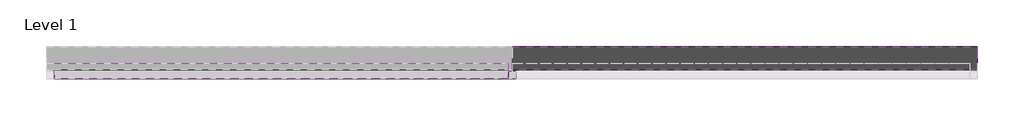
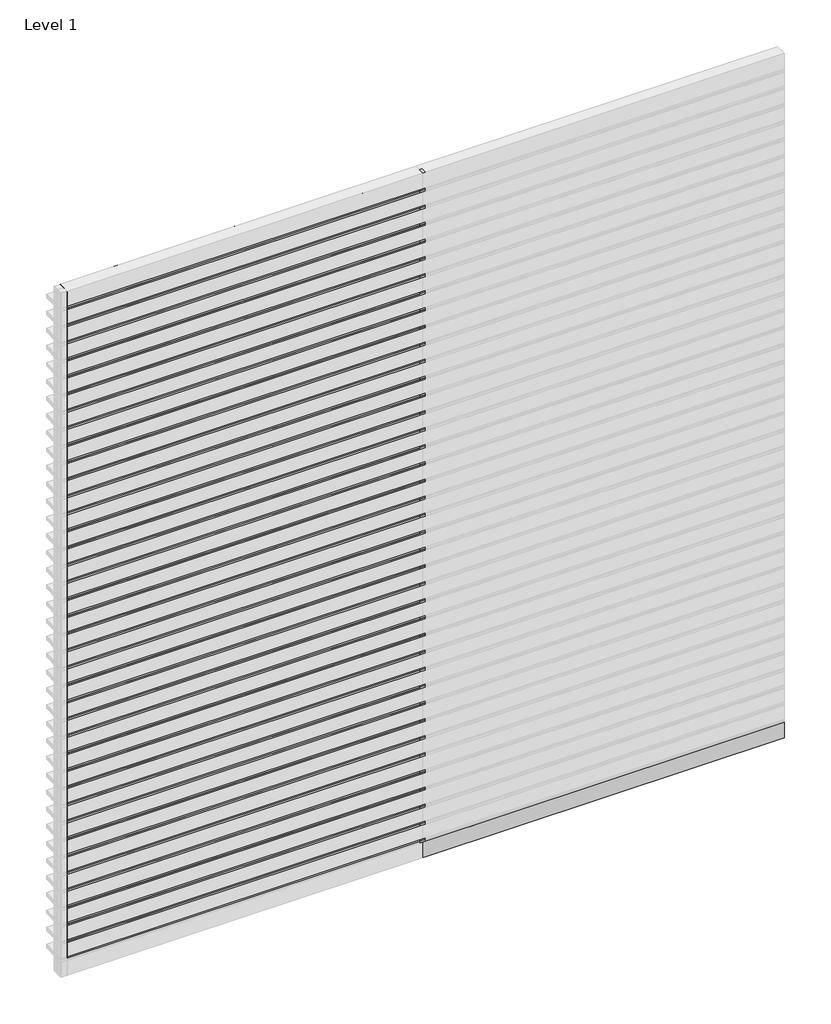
# One storey, part 2 of 3: 79 members, 40 plates.
"""IFC4 building model written with IfcOpenShell, lengths in millimetres."""

from ifc_helpers import new_model, si_unit, origin, place, context, project, spatial, transform, mapped, element, save
from components import rectangular_mullion_4e9be6f4, rectangular_mullion_eb4a5411, empty_system_panel_empty_50652f15, empty_system_panel_empty_149e9d60

model = new_model("IFC4")

# Units and contexts
model_context = context("Model", 3, world=origin())
ifc_project = project(units=[si_unit("LENGTHUNIT", "METRE", prefix="MILLI")], contexts=[model_context])

# Site, building, storey
site = spatial("IfcSite", under=ifc_project)
building = spatial("IfcBuilding", under=site)
storey = spatial("IfcBuildingStorey", under=building, Name="Level 1", Elevation=0.0)

# Members
placement = place(None, origin())
rectangular_mullion_shape = rectangular_mullion_4e9be6f4(model_context)
element("IfcMember", 1, ObjectType="Rectangular Mullion : RSen_21_CWM_blade - cubic 150 - 0°_gen_duco projects", at=placement, inside=storey, context=model_context, shape_type="MappedRepresentation", body=[
    mapped(rectangular_mullion_shape, transform((3000.0, 3000.0, 150.0), x_axis=(0.0, 0.0, 1.0), y_axis=(0.0, 1.0, 0.0), z_axis=(-1.0, 0.0, 0.0))),
])
element("IfcMember", 2, ObjectType="Rectangular Mullion : RSen_21_CWM_blade - cubic 150 - 0°_gen_duco projects", at=placement, inside=storey, context=model_context, shape_type="MappedRepresentation", body=[
    mapped(rectangular_mullion_shape, transform((3000.0, 3000.0, 300.0), x_axis=(0.0, 0.0, 1.0), y_axis=(0.0, 1.0, 0.0), z_axis=(-1.0, 0.0, 0.0))),
])
element("IfcMember", 3, ObjectType="Rectangular Mullion : RSen_21_CWM_blade - cubic 150 - 0°_gen_duco projects", at=placement, inside=storey, context=model_context, shape_type="MappedRepresentation", body=[
    mapped(rectangular_mullion_shape, transform((3000.0, 3000.0, 450.0), x_axis=(0.0, 0.0, 1.0), y_axis=(0.0, 1.0, 0.0), z_axis=(-1.0, 0.0, 0.0))),
])
element("IfcMember", 4, ObjectType="Rectangular Mullion : RSen_21_CWM_blade - cubic 150 - 0°_gen_duco projects", at=placement, inside=storey, context=model_context, shape_type="MappedRepresentation", body=[
    mapped(rectangular_mullion_shape, transform((3000.0, 3000.0, 600.0), x_axis=(0.0, 0.0, 1.0), y_axis=(0.0, 1.0, 0.0), z_axis=(-1.0, 0.0, 0.0))),
])
element("IfcMember", 5, ObjectType="Rectangular Mullion : RSen_21_CWM_blade - cubic 150 - 0°_gen_duco projects", at=placement, inside=storey, context=model_context, shape_type="MappedRepresentation", body=[
    mapped(rectangular_mullion_shape, transform((3000.0, 3000.0, 750.0), x_axis=(0.0, 0.0, 1.0), y_axis=(0.0, 1.0, 0.0), z_axis=(-1.0, 0.0, 0.0))),
])
element("IfcMember", 6, ObjectType="Rectangular Mullion : RSen_21_CWM_blade - cubic 150 - 0°_gen_duco projects", at=placement, inside=storey, context=model_context, shape_type="MappedRepresentation", body=[
    mapped(rectangular_mullion_shape, transform((3000.0, 3000.0, 900.0), x_axis=(0.0, 0.0, 1.0), y_axis=(0.0, 1.0, 0.0), z_axis=(-1.0, 0.0, 0.0))),
])
element("IfcMember", 7, ObjectType="Rectangular Mullion : RSen_21_CWM_blade - cubic 150 - 0°_gen_duco projects", at=placement, inside=storey, context=model_context, shape_type="MappedRepresentation", body=[
    mapped(rectangular_mullion_shape, transform((3000.0, 3000.0, 1050.0), x_axis=(0.0, 0.0, 1.0), y_axis=(0.0, 1.0, 0.0), z_axis=(-1.0, 0.0, 0.0))),
])
element("IfcMember", 8, ObjectType="Rectangular Mullion : RSen_21_CWM_blade - cubic 150 - 0°_gen_duco projects", at=placement, inside=storey, context=model_context, shape_type="MappedRepresentation", body=[
    mapped(rectangular_mullion_shape, transform((3000.0, 3000.0, 1200.0), x_axis=(0.0, 0.0, 1.0), y_axis=(0.0, 1.0, 0.0), z_axis=(-1.0, 0.0, 0.0))),
])
element("IfcMember", 9, ObjectType="Rectangular Mullion : RSen_21_CWM_blade - cubic 150 - 0°_gen_duco projects", at=placement, inside=storey, context=model_context, shape_type="MappedRepresentation", body=[
    mapped(rectangular_mullion_shape, transform((3000.0, 3000.0, 1350.0), x_axis=(0.0, 0.0, 1.0), y_axis=(0.0, 1.0, 0.0), z_axis=(-1.0, 0.0, 0.0))),
])
element("IfcMember", 10, ObjectType="Rectangular Mullion : RSen_21_CWM_blade - cubic 150 - 0°_gen_duco projects", at=placement, inside=storey, context=model_context, shape_type="MappedRepresentation", body=[
    mapped(rectangular_mullion_shape, transform((3000.0, 3000.0, 1500.0), x_axis=(0.0, 0.0, 1.0), y_axis=(0.0, 1.0, 0.0), z_axis=(-1.0, 0.0, 0.0))),
])
element("IfcMember", 11, ObjectType="Rectangular Mullion : RSen_21_CWM_blade - cubic 150 - 0°_gen_duco projects", at=placement, inside=storey, context=model_context, shape_type="MappedRepresentation", body=[
    mapped(rectangular_mullion_shape, transform((3000.0, 3000.0, 1650.0), x_axis=(0.0, 0.0, 1.0), y_axis=(0.0, 1.0, 0.0), z_axis=(-1.0, 0.0, 0.0))),
])
element("IfcMember", 12, ObjectType="Rectangular Mullion : RSen_21_CWM_blade - cubic 150 - 0°_gen_duco projects", at=placement, inside=storey, context=model_context, shape_type="MappedRepresentation", body=[
    mapped(rectangular_mullion_shape, transform((3000.0, 3000.0, 1800.0), x_axis=(0.0, 0.0, 1.0), y_axis=(0.0, 1.0, 0.0), z_axis=(-1.0, 0.0, 0.0))),
])
element("IfcMember", 13, ObjectType="Rectangular Mullion : RSen_21_CWM_blade - cubic 150 - 0°_gen_duco projects", at=placement, inside=storey, context=model_context, shape_type="MappedRepresentation", body=[
    mapped(rectangular_mullion_shape, transform((3000.0, 3000.0, 1950.0), x_axis=(0.0, 0.0, 1.0), y_axis=(0.0, 1.0, 0.0), z_axis=(-1.0, 0.0, 0.0))),
])
element("IfcMember", 14, ObjectType="Rectangular Mullion : RSen_21_CWM_blade - cubic 150 - 0°_gen_duco projects", at=placement, inside=storey, context=model_context, shape_type="MappedRepresentation", body=[
    mapped(rectangular_mullion_shape, transform((3000.0, 3000.0, 2100.0), x_axis=(0.0, 0.0, 1.0), y_axis=(0.0, 1.0, 0.0), z_axis=(-1.0, 0.0, 0.0))),
])
element("IfcMember", 15, ObjectType="Rectangular Mullion : RSen_21_CWM_blade - cubic 150 - 0°_gen_duco projects", at=placement, inside=storey, context=model_context, shape_type="MappedRepresentation", body=[
    mapped(rectangular_mullion_shape, transform((3000.0, 3000.0, 2250.0), x_axis=(0.0, 0.0, 1.0), y_axis=(0.0, 1.0, 0.0), z_axis=(-1.0, 0.0, 0.0))),
])
element("IfcMember", 16, ObjectType="Rectangular Mullion : RSen_21_CWM_blade - cubic 150 - 0°_gen_duco projects", at=placement, inside=storey, context=model_context, shape_type="MappedRepresentation", body=[
    mapped(rectangular_mullion_shape, transform((3000.0, 3000.0, 2400.0), x_axis=(0.0, 0.0, 1.0), y_axis=(0.0, 1.0, 0.0), z_axis=(-1.0, 0.0, 0.0))),
])
element("IfcMember", 17, ObjectType="Rectangular Mullion : RSen_21_CWM_blade - cubic 150 - 0°_gen_duco projects", at=placement, inside=storey, context=model_context, shape_type="MappedRepresentation", body=[
    mapped(rectangular_mullion_shape, transform((3000.0, 3000.0, 2550.0), x_axis=(0.0, 0.0, 1.0), y_axis=(0.0, 1.0, 0.0), z_axis=(-1.0, 0.0, 0.0))),
])
element("IfcMember", 18, ObjectType="Rectangular Mullion : RSen_21_CWM_blade - cubic 150 - 0°_gen_duco projects", at=placement, inside=storey, context=model_context, shape_type="MappedRepresentation", body=[
    mapped(rectangular_mullion_shape, transform((3000.0, 3000.0, 2700.0), x_axis=(0.0, 0.0, 1.0), y_axis=(0.0, 1.0, 0.0), z_axis=(-1.0, 0.0, 0.0))),
])
element("IfcMember", 19, ObjectType="Rectangular Mullion : RSen_21_CWM_blade - cubic 150 - 0°_gen_duco projects", at=placement, inside=storey, context=model_context, shape_type="MappedRepresentation", body=[
    mapped(rectangular_mullion_shape, transform((3000.0, 3000.0, 2850.0), x_axis=(0.0, 0.0, 1.0), y_axis=(0.0, 1.0, 0.0), z_axis=(-1.0, 0.0, 0.0))),
])
element("IfcMember", 20, ObjectType="Rectangular Mullion : RSen_21_CWM_blade - cubic 150 - 0°_gen_duco projects", at=placement, inside=storey, context=model_context, shape_type="MappedRepresentation", body=[
    mapped(rectangular_mullion_shape, transform((3000.0, 3000.0, 3000.0), x_axis=(0.0, 0.0, 1.0), y_axis=(0.0, 1.0, 0.0), z_axis=(-1.0, 0.0, 0.0))),
])
element("IfcMember", 21, ObjectType="Rectangular Mullion : RSen_21_CWM_blade - cubic 150 - 0°_gen_duco projects", at=placement, inside=storey, context=model_context, shape_type="MappedRepresentation", body=[
    mapped(rectangular_mullion_shape, transform((3000.0, 3000.0, 3150.0), x_axis=(0.0, 0.0, 1.0), y_axis=(0.0, 1.0, 0.0), z_axis=(-1.0, 0.0, 0.0))),
])
element("IfcMember", 22, ObjectType="Rectangular Mullion : RSen_21_CWM_blade - cubic 150 - 0°_gen_duco projects", at=placement, inside=storey, context=model_context, shape_type="MappedRepresentation", body=[
    mapped(rectangular_mullion_shape, transform((3000.0, 3000.0, 3300.0), x_axis=(0.0, 0.0, 1.0), y_axis=(0.0, 1.0, 0.0), z_axis=(-1.0, 0.0, 0.0))),
])
element("IfcMember", 23, ObjectType="Rectangular Mullion : RSen_21_CWM_blade - cubic 150 - 0°_gen_duco projects", at=placement, inside=storey, context=model_context, shape_type="MappedRepresentation", body=[
    mapped(rectangular_mullion_shape, transform((3000.0, 3000.0, 3450.0), x_axis=(0.0, 0.0, 1.0), y_axis=(0.0, 1.0, 0.0), z_axis=(-1.0, 0.0, 0.0))),
])
element("IfcMember", 24, ObjectType="Rectangular Mullion : RSen_21_CWM_blade - cubic 150 - 0°_gen_duco projects", at=placement, inside=storey, context=model_context, shape_type="MappedRepresentation", body=[
    mapped(rectangular_mullion_shape, transform((3000.0, 3000.0, 3600.0), x_axis=(0.0, 0.0, 1.0), y_axis=(0.0, 1.0, 0.0), z_axis=(-1.0, 0.0, 0.0))),
])
element("IfcMember", 25, ObjectType="Rectangular Mullion : RSen_21_CWM_blade - cubic 150 - 0°_gen_duco projects", at=placement, inside=storey, context=model_context, shape_type="MappedRepresentation", body=[
    mapped(rectangular_mullion_shape, transform((3000.0, 3000.0, 3750.0), x_axis=(0.0, 0.0, 1.0), y_axis=(0.0, 1.0, 0.0), z_axis=(-1.0, 0.0, 0.0))),
])
element("IfcMember", 26, ObjectType="Rectangular Mullion : RSen_21_CWM_blade - cubic 150 - 0°_gen_duco projects", at=placement, inside=storey, context=model_context, shape_type="MappedRepresentation", body=[
    mapped(rectangular_mullion_shape, transform((3000.0, 3000.0, 3900.0), x_axis=(0.0, 0.0, 1.0), y_axis=(0.0, 1.0, 0.0), z_axis=(-1.0, 0.0, 0.0))),
])
element("IfcMember", 27, ObjectType="Rectangular Mullion : RSen_21_CWM_blade - cubic 150 - 0°_gen_duco projects", at=placement, inside=storey, context=model_context, shape_type="MappedRepresentation", body=[
    mapped(rectangular_mullion_shape, transform((3000.0, 3000.0, 4050.0), x_axis=(0.0, 0.0, 1.0), y_axis=(0.0, 1.0, 0.0), z_axis=(-1.0, 0.0, 0.0))),
])
element("IfcMember", 28, ObjectType="Rectangular Mullion : RSen_21_CWM_blade - cubic 150 - 0°_gen_duco projects", at=placement, inside=storey, context=model_context, shape_type="MappedRepresentation", body=[
    mapped(rectangular_mullion_shape, transform((3000.0, 3000.0, 4200.0), x_axis=(0.0, 0.0, 1.0), y_axis=(0.0, 1.0, 0.0), z_axis=(-1.0, 0.0, 0.0))),
])
element("IfcMember", 29, ObjectType="Rectangular Mullion : RSen_21_CWM_blade - cubic 150 - 0°_gen_duco projects", at=placement, inside=storey, context=model_context, shape_type="MappedRepresentation", body=[
    mapped(rectangular_mullion_shape, transform((3000.0, 3000.0, 4350.0), x_axis=(0.0, 0.0, 1.0), y_axis=(0.0, 1.0, 0.0), z_axis=(-1.0, 0.0, 0.0))),
])
element("IfcMember", 30, ObjectType="Rectangular Mullion : RSen_21_CWM_blade - cubic 150 - 0°_gen_duco projects", at=placement, inside=storey, context=model_context, shape_type="MappedRepresentation", body=[
    mapped(rectangular_mullion_shape, transform((3000.0, 3000.0, 4500.0), x_axis=(0.0, 0.0, 1.0), y_axis=(0.0, 1.0, 0.0), z_axis=(-1.0, 0.0, 0.0))),
])
element("IfcMember", 31, ObjectType="Rectangular Mullion : RSen_21_CWM_blade - cubic 150 - 0°_gen_duco projects", at=placement, inside=storey, context=model_context, shape_type="MappedRepresentation", body=[
    mapped(rectangular_mullion_shape, transform((3000.0, 3000.0, 4650.0), x_axis=(0.0, 0.0, 1.0), y_axis=(0.0, 1.0, 0.0), z_axis=(-1.0, 0.0, 0.0))),
])
element("IfcMember", 32, ObjectType="Rectangular Mullion : RSen_21_CWM_blade - cubic 150 - 0°_gen_duco projects", at=placement, inside=storey, context=model_context, shape_type="MappedRepresentation", body=[
    mapped(rectangular_mullion_shape, transform((3000.0, 3000.0, 4800.0), x_axis=(0.0, 0.0, 1.0), y_axis=(0.0, 1.0, 0.0), z_axis=(-1.0, 0.0, 0.0))),
])
element("IfcMember", 33, ObjectType="Rectangular Mullion : RSen_21_CWM_blade - cubic 150 - 0°_gen_duco projects", at=placement, inside=storey, context=model_context, shape_type="MappedRepresentation", body=[
    mapped(rectangular_mullion_shape, transform((3000.0, 3000.0, 4950.0), x_axis=(0.0, 0.0, 1.0), y_axis=(0.0, 1.0, 0.0), z_axis=(-1.0, 0.0, 0.0))),
])
element("IfcMember", 34, ObjectType="Rectangular Mullion : RSen_21_CWM_blade - cubic 150 - 0°_gen_duco projects", at=placement, inside=storey, context=model_context, shape_type="MappedRepresentation", body=[
    mapped(rectangular_mullion_shape, transform((3000.0, 3000.0, 5100.0), x_axis=(0.0, 0.0, 1.0), y_axis=(0.0, 1.0, 0.0), z_axis=(-1.0, 0.0, 0.0))),
])
element("IfcMember", 35, ObjectType="Rectangular Mullion : RSen_21_CWM_blade - cubic 150 - 0°_gen_duco projects", at=placement, inside=storey, context=model_context, shape_type="MappedRepresentation", body=[
    mapped(rectangular_mullion_shape, transform((3000.0, 3000.0, 5250.0), x_axis=(0.0, 0.0, 1.0), y_axis=(0.0, 1.0, 0.0), z_axis=(-1.0, 0.0, 0.0))),
])
element("IfcMember", 36, ObjectType="Rectangular Mullion : RSen_21_CWM_blade - cubic 150 - 0°_gen_duco projects", at=placement, inside=storey, context=model_context, shape_type="MappedRepresentation", body=[
    mapped(rectangular_mullion_shape, transform((3000.0, 3000.0, 5400.0), x_axis=(0.0, 0.0, 1.0), y_axis=(0.0, 1.0, 0.0), z_axis=(-1.0, 0.0, 0.0))),
])
element("IfcMember", 37, ObjectType="Rectangular Mullion : RSen_21_CWM_blade - cubic 150 - 0°_gen_duco projects", at=placement, inside=storey, context=model_context, shape_type="MappedRepresentation", body=[
    mapped(rectangular_mullion_shape, transform((3000.0, 3000.0, 5550.0), x_axis=(0.0, 0.0, 1.0), y_axis=(0.0, 1.0, 0.0), z_axis=(-1.0, 0.0, 0.0))),
])
element("IfcMember", 38, ObjectType="Rectangular Mullion : RSen_21_CWM_blade - cubic 150 - 0°_gen_duco projects", at=placement, inside=storey, context=model_context, shape_type="MappedRepresentation", body=[
    mapped(rectangular_mullion_shape, transform((3000.0, 3000.0, 5700.0), x_axis=(0.0, 0.0, 1.0), y_axis=(0.0, 1.0, 0.0), z_axis=(-1.0, 0.0, 0.0))),
])
element("IfcMember", 39, ObjectType="Rectangular Mullion : RSen_21_CWM_blade - cubic 150 - 0°_gen_duco projects", at=placement, inside=storey, context=model_context, shape_type="MappedRepresentation", body=[
    mapped(rectangular_mullion_shape, transform((3000.0, 3000.0, 5850.0), x_axis=(0.0, 0.0, 1.0), y_axis=(0.0, 1.0, 0.0), z_axis=(-1.0, 0.0, 0.0))),
])
rectangular_mullion_2_shape = rectangular_mullion_eb4a5411(model_context)
element("IfcMember", 40, ObjectType="Rectangular Mullion : RSen_21_CWM_support profile 50x50_gen_duco projects", at=placement, inside=storey, context=model_context, shape_type="MappedRepresentation", body=[
    mapped(rectangular_mullion_2_shape, transform((3000.0, 3000.0, 0.0), x_axis=(-1.0, 0.0, 0.0), y_axis=(0.0, 1.0, 0.0), z_axis=(0.0, 0.0, -1.0))),
])
element("IfcMember", 41, ObjectType="Rectangular Mullion : RSen_21_CWM_support profile 50x50_gen_duco projects", at=placement, inside=storey, context=model_context, shape_type="MappedRepresentation", body=[
    mapped(rectangular_mullion_2_shape, transform((3000.0, 3000.0, 150.0), x_axis=(-1.0, 0.0, 0.0), y_axis=(0.0, 1.0, 0.0), z_axis=(0.0, 0.0, -1.0))),
])
element("IfcMember", 42, ObjectType="Rectangular Mullion : RSen_21_CWM_support profile 50x50_gen_duco projects", at=placement, inside=storey, context=model_context, shape_type="MappedRepresentation", body=[
    mapped(rectangular_mullion_2_shape, transform((3000.0, 3000.0, 300.0), x_axis=(-1.0, 0.0, 0.0), y_axis=(0.0, 1.0, 0.0), z_axis=(0.0, 0.0, -1.0))),
])
element("IfcMember", 43, ObjectType="Rectangular Mullion : RSen_21_CWM_support profile 50x50_gen_duco projects", at=placement, inside=storey, context=model_context, shape_type="MappedRepresentation", body=[
    mapped(rectangular_mullion_2_shape, transform((3000.0, 3000.0, 450.0), x_axis=(-1.0, 0.0, 0.0), y_axis=(0.0, 1.0, 0.0), z_axis=(0.0, 0.0, -1.0))),
])
element("IfcMember", 44, ObjectType="Rectangular Mullion : RSen_21_CWM_support profile 50x50_gen_duco projects", at=placement, inside=storey, context=model_context, shape_type="MappedRepresentation", body=[
    mapped(rectangular_mullion_2_shape, transform((3000.0, 3000.0, 600.0), x_axis=(-1.0, 0.0, 0.0), y_axis=(0.0, 1.0, 0.0), z_axis=(0.0, 0.0, -1.0))),
])
element("IfcMember", 45, ObjectType="Rectangular Mullion : RSen_21_CWM_support profile 50x50_gen_duco projects", at=placement, inside=storey, context=model_context, shape_type="MappedRepresentation", body=[
    mapped(rectangular_mullion_2_shape, transform((3000.0, 3000.0, 750.0), x_axis=(-1.0, 0.0, 0.0), y_axis=(0.0, 1.0, 0.0), z_axis=(0.0, 0.0, -1.0))),
])
element("IfcMember", 46, ObjectType="Rectangular Mullion : RSen_21_CWM_support profile 50x50_gen_duco projects", at=placement, inside=storey, context=model_context, shape_type="MappedRepresentation", body=[
    mapped(rectangular_mullion_2_shape, transform((3000.0, 3000.0, 900.0), x_axis=(-1.0, 0.0, 0.0), y_axis=(0.0, 1.0, 0.0), z_axis=(0.0, 0.0, -1.0))),
])
element("IfcMember", 47, ObjectType="Rectangular Mullion : RSen_21_CWM_support profile 50x50_gen_duco projects", at=placement, inside=storey, context=model_context, shape_type="MappedRepresentation", body=[
    mapped(rectangular_mullion_2_shape, transform((3000.0, 3000.0, 1050.0), x_axis=(-1.0, 0.0, 0.0), y_axis=(0.0, 1.0, 0.0), z_axis=(0.0, 0.0, -1.0))),
])
element("IfcMember", 48, ObjectType="Rectangular Mullion : RSen_21_CWM_support profile 50x50_gen_duco projects", at=placement, inside=storey, context=model_context, shape_type="MappedRepresentation", body=[
    mapped(rectangular_mullion_2_shape, transform((3000.0, 3000.0, 1200.0), x_axis=(-1.0, 0.0, 0.0), y_axis=(0.0, 1.0, 0.0), z_axis=(0.0, 0.0, -1.0))),
])
element("IfcMember", 49, ObjectType="Rectangular Mullion : RSen_21_CWM_support profile 50x50_gen_duco projects", at=placement, inside=storey, context=model_context, shape_type="MappedRepresentation", body=[
    mapped(rectangular_mullion_2_shape, transform((3000.0, 3000.0, 1350.0), x_axis=(-1.0, 0.0, 0.0), y_axis=(0.0, 1.0, 0.0), z_axis=(0.0, 0.0, -1.0))),
])
element("IfcMember", 50, ObjectType="Rectangular Mullion : RSen_21_CWM_support profile 50x50_gen_duco projects", at=placement, inside=storey, context=model_context, shape_type="MappedRepresentation", body=[
    mapped(rectangular_mullion_2_shape, transform((3000.0, 3000.0, 1500.0), x_axis=(-1.0, 0.0, 0.0), y_axis=(0.0, 1.0, 0.0), z_axis=(0.0, 0.0, -1.0))),
])
element("IfcMember", 51, ObjectType="Rectangular Mullion : RSen_21_CWM_support profile 50x50_gen_duco projects", at=placement, inside=storey, context=model_context, shape_type="MappedRepresentation", body=[
    mapped(rectangular_mullion_2_shape, transform((3000.0, 3000.0, 1650.0), x_axis=(-1.0, 0.0, 0.0), y_axis=(0.0, 1.0, 0.0), z_axis=(0.0, 0.0, -1.0))),
])
element("IfcMember", 52, ObjectType="Rectangular Mullion : RSen_21_CWM_support profile 50x50_gen_duco projects", at=placement, inside=storey, context=model_context, shape_type="MappedRepresentation", body=[
    mapped(rectangular_mullion_2_shape, transform((3000.0, 3000.0, 1800.0), x_axis=(-1.0, 0.0, 0.0), y_axis=(0.0, 1.0, 0.0), z_axis=(0.0, 0.0, -1.0))),
])
element("IfcMember", 53, ObjectType="Rectangular Mullion : RSen_21_CWM_support profile 50x50_gen_duco projects", at=placement, inside=storey, context=model_context, shape_type="MappedRepresentation", body=[
    mapped(rectangular_mullion_2_shape, transform((3000.0, 3000.0, 1950.0), x_axis=(-1.0, 0.0, 0.0), y_axis=(0.0, 1.0, 0.0), z_axis=(0.0, 0.0, -1.0))),
])
element("IfcMember", 54, ObjectType="Rectangular Mullion : RSen_21_CWM_support profile 50x50_gen_duco projects", at=placement, inside=storey, context=model_context, shape_type="MappedRepresentation", body=[
    mapped(rectangular_mullion_2_shape, transform((3000.0, 3000.0, 2100.0), x_axis=(-1.0, 0.0, 0.0), y_axis=(0.0, 1.0, 0.0), z_axis=(0.0, 0.0, -1.0))),
])
element("IfcMember", 55, ObjectType="Rectangular Mullion : RSen_21_CWM_support profile 50x50_gen_duco projects", at=placement, inside=storey, context=model_context, shape_type="MappedRepresentation", body=[
    mapped(rectangular_mullion_2_shape, transform((3000.0, 3000.0, 2250.0), x_axis=(-1.0, 0.0, 0.0), y_axis=(0.0, 1.0, 0.0), z_axis=(0.0, 0.0, -1.0))),
])
element("IfcMember", 56, ObjectType="Rectangular Mullion : RSen_21_CWM_support profile 50x50_gen_duco projects", at=placement, inside=storey, context=model_context, shape_type="MappedRepresentation", body=[
    mapped(rectangular_mullion_2_shape, transform((3000.0, 3000.0, 2400.0), x_axis=(-1.0, 0.0, 0.0), y_axis=(0.0, 1.0, 0.0), z_axis=(0.0, 0.0, -1.0))),
])
element("IfcMember", 57, ObjectType="Rectangular Mullion : RSen_21_CWM_support profile 50x50_gen_duco projects", at=placement, inside=storey, context=model_context, shape_type="MappedRepresentation", body=[
    mapped(rectangular_mullion_2_shape, transform((3000.0, 3000.0, 2550.0), x_axis=(-1.0, 0.0, 0.0), y_axis=(0.0, 1.0, 0.0), z_axis=(0.0, 0.0, -1.0))),
])
element("IfcMember", 58, ObjectType="Rectangular Mullion : RSen_21_CWM_support profile 50x50_gen_duco projects", at=placement, inside=storey, context=model_context, shape_type="MappedRepresentation", body=[
    mapped(rectangular_mullion_2_shape, transform((3000.0, 3000.0, 2700.0), x_axis=(-1.0, 0.0, 0.0), y_axis=(0.0, 1.0, 0.0), z_axis=(0.0, 0.0, -1.0))),
])
element("IfcMember", 59, ObjectType="Rectangular Mullion : RSen_21_CWM_support profile 50x50_gen_duco projects", at=placement, inside=storey, context=model_context, shape_type="MappedRepresentation", body=[
    mapped(rectangular_mullion_2_shape, transform((3000.0, 3000.0, 2850.0), x_axis=(-1.0, 0.0, 0.0), y_axis=(0.0, 1.0, 0.0), z_axis=(0.0, 0.0, -1.0))),
])
element("IfcMember", 60, ObjectType="Rectangular Mullion : RSen_21_CWM_support profile 50x50_gen_duco projects", at=placement, inside=storey, context=model_context, shape_type="MappedRepresentation", body=[
    mapped(rectangular_mullion_2_shape, transform((3000.0, 3000.0, 3000.0), x_axis=(-1.0, 0.0, 0.0), y_axis=(0.0, 1.0, 0.0), z_axis=(0.0, 0.0, -1.0))),
])
element("IfcMember", 61, ObjectType="Rectangular Mullion : RSen_21_CWM_support profile 50x50_gen_duco projects", at=placement, inside=storey, context=model_context, shape_type="MappedRepresentation", body=[
    mapped(rectangular_mullion_2_shape, transform((3000.0, 3000.0, 3150.0), x_axis=(-1.0, 0.0, 0.0), y_axis=(0.0, 1.0, 0.0), z_axis=(0.0, 0.0, -1.0))),
])
element("IfcMember", 62, ObjectType="Rectangular Mullion : RSen_21_CWM_support profile 50x50_gen_duco projects", at=placement, inside=storey, context=model_context, shape_type="MappedRepresentation", body=[
    mapped(rectangular_mullion_2_shape, transform((3000.0, 3000.0, 3300.0), x_axis=(-1.0, 0.0, 0.0), y_axis=(0.0, 1.0, 0.0), z_axis=(0.0, 0.0, -1.0))),
])
element("IfcMember", 63, ObjectType="Rectangular Mullion : RSen_21_CWM_support profile 50x50_gen_duco projects", at=placement, inside=storey, context=model_context, shape_type="MappedRepresentation", body=[
    mapped(rectangular_mullion_2_shape, transform((3000.0, 3000.0, 3450.0), x_axis=(-1.0, 0.0, 0.0), y_axis=(0.0, 1.0, 0.0), z_axis=(0.0, 0.0, -1.0))),
])
element("IfcMember", 64, ObjectType="Rectangular Mullion : RSen_21_CWM_support profile 50x50_gen_duco projects", at=placement, inside=storey, context=model_context, shape_type="MappedRepresentation", body=[
    mapped(rectangular_mullion_2_shape, transform((3000.0, 3000.0, 3600.0), x_axis=(-1.0, 0.0, 0.0), y_axis=(0.0, 1.0, 0.0), z_axis=(0.0, 0.0, -1.0))),
])
element("IfcMember", 65, ObjectType="Rectangular Mullion : RSen_21_CWM_support profile 50x50_gen_duco projects", at=placement, inside=storey, context=model_context, shape_type="MappedRepresentation", body=[
    mapped(rectangular_mullion_2_shape, transform((3000.0, 3000.0, 3750.0), x_axis=(-1.0, 0.0, 0.0), y_axis=(0.0, 1.0, 0.0), z_axis=(0.0, 0.0, -1.0))),
])
element("IfcMember", 66, ObjectType="Rectangular Mullion : RSen_21_CWM_support profile 50x50_gen_duco projects", at=placement, inside=storey, context=model_context, shape_type="MappedRepresentation", body=[
    mapped(rectangular_mullion_2_shape, transform((3000.0, 3000.0, 3900.0), x_axis=(-1.0, 0.0, 0.0), y_axis=(0.0, 1.0, 0.0), z_axis=(0.0, 0.0, -1.0))),
])
element("IfcMember", 67, ObjectType="Rectangular Mullion : RSen_21_CWM_support profile 50x50_gen_duco projects", at=placement, inside=storey, context=model_context, shape_type="MappedRepresentation", body=[
    mapped(rectangular_mullion_2_shape, transform((3000.0, 3000.0, 4050.0), x_axis=(-1.0, 0.0, 0.0), y_axis=(0.0, 1.0, 0.0), z_axis=(0.0, 0.0, -1.0))),
])
element("IfcMember", 68, ObjectType="Rectangular Mullion : RSen_21_CWM_support profile 50x50_gen_duco projects", at=placement, inside=storey, context=model_context, shape_type="MappedRepresentation", body=[
    mapped(rectangular_mullion_2_shape, transform((3000.0, 3000.0, 4200.0), x_axis=(-1.0, 0.0, 0.0), y_axis=(0.0, 1.0, 0.0), z_axis=(0.0, 0.0, -1.0))),
])
element("IfcMember", 69, ObjectType="Rectangular Mullion : RSen_21_CWM_support profile 50x50_gen_duco projects", at=placement, inside=storey, context=model_context, shape_type="MappedRepresentation", body=[
    mapped(rectangular_mullion_2_shape, transform((3000.0, 3000.0, 4350.0), x_axis=(-1.0, 0.0, 0.0), y_axis=(0.0, 1.0, 0.0), z_axis=(0.0, 0.0, -1.0))),
])
element("IfcMember", 70, ObjectType="Rectangular Mullion : RSen_21_CWM_support profile 50x50_gen_duco projects", at=placement, inside=storey, context=model_context, shape_type="MappedRepresentation", body=[
    mapped(rectangular_mullion_2_shape, transform((3000.0, 3000.0, 4500.0), x_axis=(-1.0, 0.0, 0.0), y_axis=(0.0, 1.0, 0.0), z_axis=(0.0, 0.0, -1.0))),
])
element("IfcMember", 71, ObjectType="Rectangular Mullion : RSen_21_CWM_support profile 50x50_gen_duco projects", at=placement, inside=storey, context=model_context, shape_type="MappedRepresentation", body=[
    mapped(rectangular_mullion_2_shape, transform((3000.0, 3000.0, 4650.0), x_axis=(-1.0, 0.0, 0.0), y_axis=(0.0, 1.0, 0.0), z_axis=(0.0, 0.0, -1.0))),
])
element("IfcMember", 72, ObjectType="Rectangular Mullion : RSen_21_CWM_support profile 50x50_gen_duco projects", at=placement, inside=storey, context=model_context, shape_type="MappedRepresentation", body=[
    mapped(rectangular_mullion_2_shape, transform((3000.0, 3000.0, 4800.0), x_axis=(-1.0, 0.0, 0.0), y_axis=(0.0, 1.0, 0.0), z_axis=(0.0, 0.0, -1.0))),
])
element("IfcMember", 73, ObjectType="Rectangular Mullion : RSen_21_CWM_support profile 50x50_gen_duco projects", at=placement, inside=storey, context=model_context, shape_type="MappedRepresentation", body=[
    mapped(rectangular_mullion_2_shape, transform((3000.0, 3000.0, 4950.0), x_axis=(-1.0, 0.0, 0.0), y_axis=(0.0, 1.0, 0.0), z_axis=(0.0, 0.0, -1.0))),
])
element("IfcMember", 74, ObjectType="Rectangular Mullion : RSen_21_CWM_support profile 50x50_gen_duco projects", at=placement, inside=storey, context=model_context, shape_type="MappedRepresentation", body=[
    mapped(rectangular_mullion_2_shape, transform((3000.0, 3000.0, 5100.0), x_axis=(-1.0, 0.0, 0.0), y_axis=(0.0, 1.0, 0.0), z_axis=(0.0, 0.0, -1.0))),
])
element("IfcMember", 75, ObjectType="Rectangular Mullion : RSen_21_CWM_support profile 50x50_gen_duco projects", at=placement, inside=storey, context=model_context, shape_type="MappedRepresentation", body=[
    mapped(rectangular_mullion_2_shape, transform((3000.0, 3000.0, 5250.0), x_axis=(-1.0, 0.0, 0.0), y_axis=(0.0, 1.0, 0.0), z_axis=(0.0, 0.0, -1.0))),
])
element("IfcMember", 76, ObjectType="Rectangular Mullion : RSen_21_CWM_support profile 50x50_gen_duco projects", at=placement, inside=storey, context=model_context, shape_type="MappedRepresentation", body=[
    mapped(rectangular_mullion_2_shape, transform((3000.0, 3000.0, 5400.0), x_axis=(-1.0, 0.0, 0.0), y_axis=(0.0, 1.0, 0.0), z_axis=(0.0, 0.0, -1.0))),
])
element("IfcMember", 77, ObjectType="Rectangular Mullion : RSen_21_CWM_support profile 50x50_gen_duco projects", at=placement, inside=storey, context=model_context, shape_type="MappedRepresentation", body=[
    mapped(rectangular_mullion_2_shape, transform((3000.0, 3000.0, 5550.0), x_axis=(-1.0, 0.0, 0.0), y_axis=(0.0, 1.0, 0.0), z_axis=(0.0, 0.0, -1.0))),
])
element("IfcMember", 78, ObjectType="Rectangular Mullion : RSen_21_CWM_support profile 50x50_gen_duco projects", at=placement, inside=storey, context=model_context, shape_type="MappedRepresentation", body=[
    mapped(rectangular_mullion_2_shape, transform((3000.0, 3000.0, 5700.0), x_axis=(-1.0, 0.0, 0.0), y_axis=(0.0, 1.0, 0.0), z_axis=(0.0, 0.0, -1.0))),
])
element("IfcMember", 79, ObjectType="Rectangular Mullion : RSen_21_CWM_support profile 50x50_gen_duco projects", at=placement, inside=storey, context=model_context, shape_type="MappedRepresentation", body=[
    mapped(rectangular_mullion_2_shape, transform((3000.0, 3000.0, 5850.0), x_axis=(-1.0, 0.0, 0.0), y_axis=(0.0, 1.0, 0.0), z_axis=(0.0, 0.0, -1.0))),
])

# Plates
empty_system_panel_empty_shape = empty_system_panel_empty_50652f15(model_context)
element("IfcPlate", 80, ObjectType="Empty System Panel : Empty", at=placement, inside=storey, context=model_context, shape_type="MappedRepresentation", body=[
    mapped(empty_system_panel_empty_shape, transform((4500.0, 3000.0, 0.0), x_axis=(-1.0, 0.0, 0.0), y_axis=(0.0, -1.0, 0.0), z_axis=(0.0, 0.0, 1.0))),
])
empty_system_panel_empty_2_shape = empty_system_panel_empty_149e9d60(model_context)
element("IfcPlate", 81, ObjectType="Empty System Panel : Empty", at=placement, inside=storey, context=model_context, shape_type="MappedRepresentation", body=[
    mapped(empty_system_panel_empty_2_shape, transform((1512.5, 3000.0, 150.0), x_axis=(-1.0, 0.0, 0.0), y_axis=(0.0, -1.0, 0.0), z_axis=(0.0, 0.0, 1.0))),
])
element("IfcPlate", 82, ObjectType="Empty System Panel : Empty", at=placement, inside=storey, context=model_context, shape_type="MappedRepresentation", body=[
    mapped(empty_system_panel_empty_2_shape, transform((1512.5, 3000.0, 300.0), x_axis=(-1.0, 0.0, 0.0), y_axis=(0.0, -1.0, 0.0), z_axis=(0.0, 0.0, 1.0))),
])
element("IfcPlate", 83, ObjectType="Empty System Panel : Empty", at=placement, inside=storey, context=model_context, shape_type="MappedRepresentation", body=[
    mapped(empty_system_panel_empty_2_shape, transform((1512.5, 3000.0, 450.0), x_axis=(-1.0, 0.0, 0.0), y_axis=(0.0, -1.0, 0.0), z_axis=(0.0, 0.0, 1.0))),
])
element("IfcPlate", 84, ObjectType="Empty System Panel : Empty", at=placement, inside=storey, context=model_context, shape_type="MappedRepresentation", body=[
    mapped(empty_system_panel_empty_2_shape, transform((1512.5, 3000.0, 600.0), x_axis=(-1.0, 0.0, 0.0), y_axis=(0.0, -1.0, 0.0), z_axis=(0.0, 0.0, 1.0))),
])
element("IfcPlate", 85, ObjectType="Empty System Panel : Empty", at=placement, inside=storey, context=model_context, shape_type="MappedRepresentation", body=[
    mapped(empty_system_panel_empty_2_shape, transform((1512.5, 3000.0, 750.0), x_axis=(-1.0, 0.0, 0.0), y_axis=(0.0, -1.0, 0.0), z_axis=(0.0, 0.0, 1.0))),
])
element("IfcPlate", 86, ObjectType="Empty System Panel : Empty", at=placement, inside=storey, context=model_context, shape_type="MappedRepresentation", body=[
    mapped(empty_system_panel_empty_2_shape, transform((1512.5, 3000.0, 900.0), x_axis=(-1.0, 0.0, 0.0), y_axis=(0.0, -1.0, 0.0), z_axis=(0.0, 0.0, 1.0))),
])
element("IfcPlate", 87, ObjectType="Empty System Panel : Empty", at=placement, inside=storey, context=model_context, shape_type="MappedRepresentation", body=[
    mapped(empty_system_panel_empty_2_shape, transform((1512.5, 3000.0, 1050.0), x_axis=(-1.0, 0.0, 0.0), y_axis=(0.0, -1.0, 0.0), z_axis=(0.0, 0.0, 1.0))),
])
element("IfcPlate", 88, ObjectType="Empty System Panel : Empty", at=placement, inside=storey, context=model_context, shape_type="MappedRepresentation", body=[
    mapped(empty_system_panel_empty_2_shape, transform((1512.5, 3000.0, 1200.0), x_axis=(-1.0, 0.0, 0.0), y_axis=(0.0, -1.0, 0.0), z_axis=(0.0, 0.0, 1.0))),
])
element("IfcPlate", 89, ObjectType="Empty System Panel : Empty", at=placement, inside=storey, context=model_context, shape_type="MappedRepresentation", body=[
    mapped(empty_system_panel_empty_2_shape, transform((1512.5, 3000.0, 1350.0), x_axis=(-1.0, 0.0, 0.0), y_axis=(0.0, -1.0, 0.0), z_axis=(0.0, 0.0, 1.0))),
])
element("IfcPlate", 90, ObjectType="Empty System Panel : Empty", at=placement, inside=storey, context=model_context, shape_type="MappedRepresentation", body=[
    mapped(empty_system_panel_empty_2_shape, transform((1512.5, 3000.0, 1500.0), x_axis=(-1.0, 0.0, 0.0), y_axis=(0.0, -1.0, 0.0), z_axis=(0.0, 0.0, 1.0))),
])
element("IfcPlate", 91, ObjectType="Empty System Panel : Empty", at=placement, inside=storey, context=model_context, shape_type="MappedRepresentation", body=[
    mapped(empty_system_panel_empty_2_shape, transform((1512.5, 3000.0, 1650.0), x_axis=(-1.0, 0.0, 0.0), y_axis=(0.0, -1.0, 0.0), z_axis=(0.0, 0.0, 1.0))),
])
element("IfcPlate", 92, ObjectType="Empty System Panel : Empty", at=placement, inside=storey, context=model_context, shape_type="MappedRepresentation", body=[
    mapped(empty_system_panel_empty_2_shape, transform((1512.5, 3000.0, 1800.0), x_axis=(-1.0, 0.0, 0.0), y_axis=(0.0, -1.0, 0.0), z_axis=(0.0, 0.0, 1.0))),
])
element("IfcPlate", 93, ObjectType="Empty System Panel : Empty", at=placement, inside=storey, context=model_context, shape_type="MappedRepresentation", body=[
    mapped(empty_system_panel_empty_2_shape, transform((1512.5, 3000.0, 1950.0), x_axis=(-1.0, 0.0, 0.0), y_axis=(0.0, -1.0, 0.0), z_axis=(0.0, 0.0, 1.0))),
])
element("IfcPlate", 94, ObjectType="Empty System Panel : Empty", at=placement, inside=storey, context=model_context, shape_type="MappedRepresentation", body=[
    mapped(empty_system_panel_empty_2_shape, transform((1512.5, 3000.0, 2100.0), x_axis=(-1.0, 0.0, 0.0), y_axis=(0.0, -1.0, 0.0), z_axis=(0.0, 0.0, 1.0))),
])
element("IfcPlate", 95, ObjectType="Empty System Panel : Empty", at=placement, inside=storey, context=model_context, shape_type="MappedRepresentation", body=[
    mapped(empty_system_panel_empty_2_shape, transform((1512.5, 3000.0, 2250.0), x_axis=(-1.0, 0.0, 0.0), y_axis=(0.0, -1.0, 0.0), z_axis=(0.0, 0.0, 1.0))),
])
element("IfcPlate", 96, ObjectType="Empty System Panel : Empty", at=placement, inside=storey, context=model_context, shape_type="MappedRepresentation", body=[
    mapped(empty_system_panel_empty_2_shape, transform((1512.5, 3000.0, 2400.0), x_axis=(-1.0, 0.0, 0.0), y_axis=(0.0, -1.0, 0.0), z_axis=(0.0, 0.0, 1.0))),
])
element("IfcPlate", 97, ObjectType="Empty System Panel : Empty", at=placement, inside=storey, context=model_context, shape_type="MappedRepresentation", body=[
    mapped(empty_system_panel_empty_2_shape, transform((1512.5, 3000.0, 2550.0), x_axis=(-1.0, 0.0, 0.0), y_axis=(0.0, -1.0, 0.0), z_axis=(0.0, 0.0, 1.0))),
])
element("IfcPlate", 98, ObjectType="Empty System Panel : Empty", at=placement, inside=storey, context=model_context, shape_type="MappedRepresentation", body=[
    mapped(empty_system_panel_empty_2_shape, transform((1512.5, 3000.0, 2700.0), x_axis=(-1.0, 0.0, 0.0), y_axis=(0.0, -1.0, 0.0), z_axis=(0.0, 0.0, 1.0))),
])
element("IfcPlate", 99, ObjectType="Empty System Panel : Empty", at=placement, inside=storey, context=model_context, shape_type="MappedRepresentation", body=[
    mapped(empty_system_panel_empty_2_shape, transform((1512.5, 3000.0, 2850.0), x_axis=(-1.0, 0.0, 0.0), y_axis=(0.0, -1.0, 0.0), z_axis=(0.0, 0.0, 1.0))),
])
element("IfcPlate", 100, ObjectType="Empty System Panel : Empty", at=placement, inside=storey, context=model_context, shape_type="MappedRepresentation", body=[
    mapped(empty_system_panel_empty_2_shape, transform((1512.5, 3000.0, 3000.0), x_axis=(-1.0, 0.0, 0.0), y_axis=(0.0, -1.0, 0.0), z_axis=(0.0, 0.0, 1.0))),
])
element("IfcPlate", 101, ObjectType="Empty System Panel : Empty", at=placement, inside=storey, context=model_context, shape_type="MappedRepresentation", body=[
    mapped(empty_system_panel_empty_2_shape, transform((1512.5, 3000.0, 3150.0), x_axis=(-1.0, 0.0, 0.0), y_axis=(0.0, -1.0, 0.0), z_axis=(0.0, 0.0, 1.0))),
])
element("IfcPlate", 102, ObjectType="Empty System Panel : Empty", at=placement, inside=storey, context=model_context, shape_type="MappedRepresentation", body=[
    mapped(empty_system_panel_empty_2_shape, transform((1512.5, 3000.0, 3300.0), x_axis=(-1.0, 0.0, 0.0), y_axis=(0.0, -1.0, 0.0), z_axis=(0.0, 0.0, 1.0))),
])
element("IfcPlate", 103, ObjectType="Empty System Panel : Empty", at=placement, inside=storey, context=model_context, shape_type="MappedRepresentation", body=[
    mapped(empty_system_panel_empty_2_shape, transform((1512.5, 3000.0, 3450.0), x_axis=(-1.0, 0.0, 0.0), y_axis=(0.0, -1.0, 0.0), z_axis=(0.0, 0.0, 1.0))),
])
element("IfcPlate", 104, ObjectType="Empty System Panel : Empty", at=placement, inside=storey, context=model_context, shape_type="MappedRepresentation", body=[
    mapped(empty_system_panel_empty_2_shape, transform((1512.5, 3000.0, 3600.0), x_axis=(-1.0, 0.0, 0.0), y_axis=(0.0, -1.0, 0.0), z_axis=(0.0, 0.0, 1.0))),
])
element("IfcPlate", 105, ObjectType="Empty System Panel : Empty", at=placement, inside=storey, context=model_context, shape_type="MappedRepresentation", body=[
    mapped(empty_system_panel_empty_2_shape, transform((1512.5, 3000.0, 3750.0), x_axis=(-1.0, 0.0, 0.0), y_axis=(0.0, -1.0, 0.0), z_axis=(0.0, 0.0, 1.0))),
])
element("IfcPlate", 106, ObjectType="Empty System Panel : Empty", at=placement, inside=storey, context=model_context, shape_type="MappedRepresentation", body=[
    mapped(empty_system_panel_empty_2_shape, transform((1512.5, 3000.0, 3900.0), x_axis=(-1.0, 0.0, 0.0), y_axis=(0.0, -1.0, 0.0), z_axis=(0.0, 0.0, 1.0))),
])
element("IfcPlate", 107, ObjectType="Empty System Panel : Empty", at=placement, inside=storey, context=model_context, shape_type="MappedRepresentation", body=[
    mapped(empty_system_panel_empty_2_shape, transform((1512.5, 3000.0, 4050.0), x_axis=(-1.0, 0.0, 0.0), y_axis=(0.0, -1.0, 0.0), z_axis=(0.0, 0.0, 1.0))),
])
element("IfcPlate", 108, ObjectType="Empty System Panel : Empty", at=placement, inside=storey, context=model_context, shape_type="MappedRepresentation", body=[
    mapped(empty_system_panel_empty_2_shape, transform((1512.5, 3000.0, 4200.0), x_axis=(-1.0, 0.0, 0.0), y_axis=(0.0, -1.0, 0.0), z_axis=(0.0, 0.0, 1.0))),
])
element("IfcPlate", 109, ObjectType="Empty System Panel : Empty", at=placement, inside=storey, context=model_context, shape_type="MappedRepresentation", body=[
    mapped(empty_system_panel_empty_2_shape, transform((1512.5, 3000.0, 4350.0), x_axis=(-1.0, 0.0, 0.0), y_axis=(0.0, -1.0, 0.0), z_axis=(0.0, 0.0, 1.0))),
])
element("IfcPlate", 110, ObjectType="Empty System Panel : Empty", at=placement, inside=storey, context=model_context, shape_type="MappedRepresentation", body=[
    mapped(empty_system_panel_empty_2_shape, transform((1512.5, 3000.0, 4500.0), x_axis=(-1.0, 0.0, 0.0), y_axis=(0.0, -1.0, 0.0), z_axis=(0.0, 0.0, 1.0))),
])
element("IfcPlate", 111, ObjectType="Empty System Panel : Empty", at=placement, inside=storey, context=model_context, shape_type="MappedRepresentation", body=[
    mapped(empty_system_panel_empty_2_shape, transform((1512.5, 3000.0, 4650.0), x_axis=(-1.0, 0.0, 0.0), y_axis=(0.0, -1.0, 0.0), z_axis=(0.0, 0.0, 1.0))),
])
element("IfcPlate", 112, ObjectType="Empty System Panel : Empty", at=placement, inside=storey, context=model_context, shape_type="MappedRepresentation", body=[
    mapped(empty_system_panel_empty_2_shape, transform((1512.5, 3000.0, 4800.0), x_axis=(-1.0, 0.0, 0.0), y_axis=(0.0, -1.0, 0.0), z_axis=(0.0, 0.0, 1.0))),
])
element("IfcPlate", 113, ObjectType="Empty System Panel : Empty", at=placement, inside=storey, context=model_context, shape_type="MappedRepresentation", body=[
    mapped(empty_system_panel_empty_2_shape, transform((1512.5, 3000.0, 4950.0), x_axis=(-1.0, 0.0, 0.0), y_axis=(0.0, -1.0, 0.0), z_axis=(0.0, 0.0, 1.0))),
])
element("IfcPlate", 114, ObjectType="Empty System Panel : Empty", at=placement, inside=storey, context=model_context, shape_type="MappedRepresentation", body=[
    mapped(empty_system_panel_empty_2_shape, transform((1512.5, 3000.0, 5100.0), x_axis=(-1.0, 0.0, 0.0), y_axis=(0.0, -1.0, 0.0), z_axis=(0.0, 0.0, 1.0))),
])
element("IfcPlate", 115, ObjectType="Empty System Panel : Empty", at=placement, inside=storey, context=model_context, shape_type="MappedRepresentation", body=[
    mapped(empty_system_panel_empty_2_shape, transform((1512.5, 3000.0, 5250.0), x_axis=(-1.0, 0.0, 0.0), y_axis=(0.0, -1.0, 0.0), z_axis=(0.0, 0.0, 1.0))),
])
element("IfcPlate", 116, ObjectType="Empty System Panel : Empty", at=placement, inside=storey, context=model_context, shape_type="MappedRepresentation", body=[
    mapped(empty_system_panel_empty_2_shape, transform((1512.5, 3000.0, 5400.0), x_axis=(-1.0, 0.0, 0.0), y_axis=(0.0, -1.0, 0.0), z_axis=(0.0, 0.0, 1.0))),
])
element("IfcPlate", 117, ObjectType="Empty System Panel : Empty", at=placement, inside=storey, context=model_context, shape_type="MappedRepresentation", body=[
    mapped(empty_system_panel_empty_2_shape, transform((1512.5, 3000.0, 5550.0), x_axis=(-1.0, 0.0, 0.0), y_axis=(0.0, -1.0, 0.0), z_axis=(0.0, 0.0, 1.0))),
])
element("IfcPlate", 118, ObjectType="Empty System Panel : Empty", at=placement, inside=storey, context=model_context, shape_type="MappedRepresentation", body=[
    mapped(empty_system_panel_empty_2_shape, transform((1512.5, 3000.0, 5700.0), x_axis=(-1.0, 0.0, 0.0), y_axis=(0.0, -1.0, 0.0), z_axis=(0.0, 0.0, 1.0))),
])
element("IfcPlate", 119, ObjectType="Empty System Panel : Empty", at=placement, inside=storey, context=model_context, shape_type="MappedRepresentation", body=[
    mapped(empty_system_panel_empty_2_shape, transform((1512.5, 3000.0, 5850.0), x_axis=(-1.0, 0.0, 0.0), y_axis=(0.0, -1.0, 0.0), z_axis=(0.0, 0.0, 1.0))),
])

save(model, "model.ifc")
